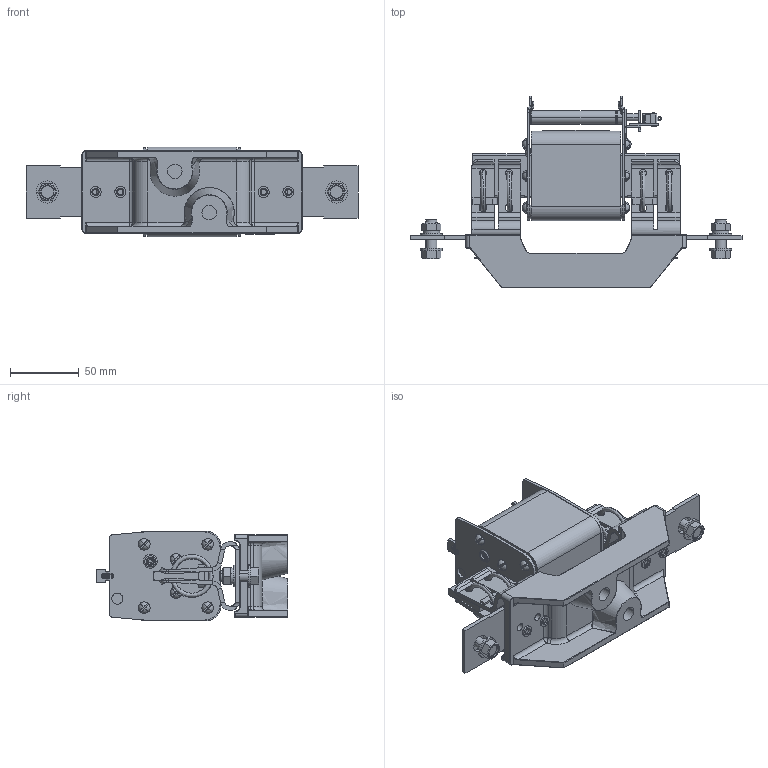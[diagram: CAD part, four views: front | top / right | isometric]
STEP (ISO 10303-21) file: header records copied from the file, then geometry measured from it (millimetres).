
FILE_DESCRIPTION (( 'STEP AP203' ), '1' );
FILE_NAME ('Ïðåäîõðàíèòåëü ÏÍÁ7-690-630.STEP', '2014-06-26T10:55:51', ( 'admin' ), ( 'Microsoft' ), 'SwSTEP 2.0', 'SolidWorks 2007', '' );
FILE_SCHEMA (( 'CONFIG_CONTROL_DESIGN' ));
Length unit declared in the file: millimetre
Products named in the file (1): Ïðåäîõðàíèòåëü ÏÍÁ7-690-630
Bounding box: 241 x 139.27 x 65 mm (x, y, z)
Surface area: 141374.5 mm2 (no closed solid volume)
Topology: 0 solids, 81 shells, 1086 faces, 3030 edges, 1957 vertices
Faces by surface type: plane 451, cylinder 395, torus 118, bspline 62, sphere 46, cone 14
Entity records: 38019 total; most frequent: CARTESIAN_POINT 10213, DIRECTION 6169, ORIENTED_EDGE 5164, EDGE_CURVE 3014, AXIS2_PLACEMENT_3D 2348, VERTEX_POINT 1957, VECTOR 1473, LINE 1473
